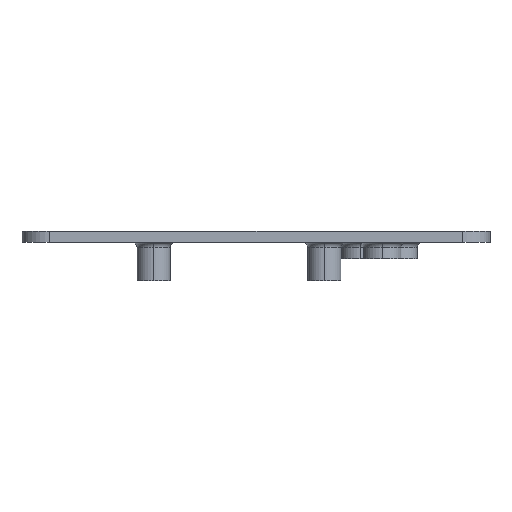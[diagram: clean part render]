
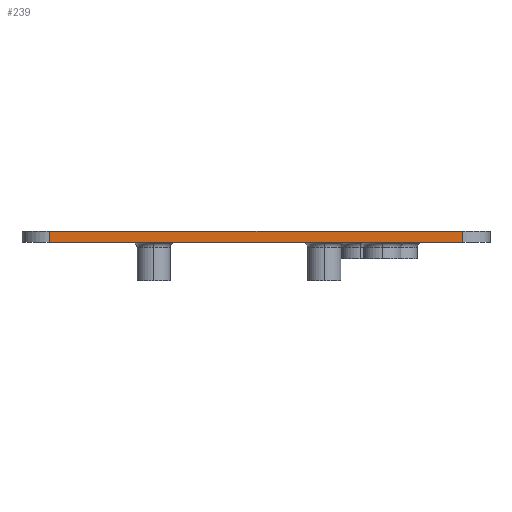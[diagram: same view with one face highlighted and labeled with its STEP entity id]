
A CAD part, left-side view. The second image highlights one B-rep face of the part: STEP entity #239.
In plain terms, the highlighted planar face has unit normal (-1, 0, 0).
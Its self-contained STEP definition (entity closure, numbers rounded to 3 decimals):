
#115 = ORIENTED_EDGE ( 'NONE', *, *, #2524, .F. ) ;
#154 = CARTESIAN_POINT ( 'NONE',  ( -45., 37.5, 0. ) ) ;
#239 = ADVANCED_FACE ( 'NONE', ( #1433 ), #621, .F. ) ;
#262 = VECTOR ( 'NONE', #821, 1000. ) ;
#289 = ORIENTED_EDGE ( 'NONE', *, *, #3244, .T. ) ;
#364 = CARTESIAN_POINT ( 'NONE',  ( -45., 37.5, 0. ) ) ;
#416 = ORIENTED_EDGE ( 'NONE', *, *, #3052, .F. ) ;
#483 = CARTESIAN_POINT ( 'NONE',  ( -45., 37.5, 2. ) ) ;
#520 = CARTESIAN_POINT ( 'NONE',  ( -45., 37.5, 2. ) ) ;
#621 = PLANE ( 'NONE',  #1502 ) ;
#821 = DIRECTION ( 'NONE',  ( 0., 0., -1. ) ) ;
#848 = CARTESIAN_POINT ( 'NONE',  ( -45., -37.5, 0. ) ) ;
#904 = DIRECTION ( 'NONE',  ( 1., 0., 0. ) ) ;
#1021 = LINE ( 'NONE', #483, #3109 ) ;
#1062 = DIRECTION ( 'NONE',  ( 0., 0., -1. ) ) ;
#1254 = CARTESIAN_POINT ( 'NONE',  ( -45., -37.5, 2. ) ) ;
#1320 = EDGE_LOOP ( 'NONE', ( #289, #416, #115, #2812 ) ) ;
#1433 = FACE_OUTER_BOUND ( 'NONE', #1320, .T. ) ;
#1502 = AXIS2_PLACEMENT_3D ( 'NONE', #3013, #904, #2261 ) ;
#1566 = VERTEX_POINT ( 'NONE', #2163 ) ;
#1666 = CARTESIAN_POINT ( 'NONE',  ( -45., -37.5, 2. ) ) ;
#1692 = VERTEX_POINT ( 'NONE', #154 ) ;
#1906 = LINE ( 'NONE', #520, #2002 ) ;
#2002 = VECTOR ( 'NONE', #1062, 1000. ) ;
#2073 = EDGE_CURVE ( 'NONE', #1566, #1692, #1906, .T. ) ;
#2161 = VERTEX_POINT ( 'NONE', #1254 ) ;
#2163 = CARTESIAN_POINT ( 'NONE',  ( -45., 37.5, 2. ) ) ;
#2197 = LINE ( 'NONE', #1666, #262 ) ;
#2261 = DIRECTION ( 'NONE',  ( 0., 1., 0. ) ) ;
#2265 = DIRECTION ( 'NONE',  ( 0., -1., 0. ) ) ;
#2302 = LINE ( 'NONE', #364, #2958 ) ;
#2524 = EDGE_CURVE ( 'NONE', #1566, #2161, #1021, .T. ) ;
#2812 = ORIENTED_EDGE ( 'NONE', *, *, #2073, .T. ) ;
#2821 = DIRECTION ( 'NONE',  ( 0., -1., 0. ) ) ;
#2958 = VECTOR ( 'NONE', #2265, 1000. ) ;
#3013 = CARTESIAN_POINT ( 'NONE',  ( -45., 37.5, 2. ) ) ;
#3052 = EDGE_CURVE ( 'NONE', #2161, #3054, #2197, .T. ) ;
#3054 = VERTEX_POINT ( 'NONE', #848 ) ;
#3109 = VECTOR ( 'NONE', #2821, 1000. ) ;
#3244 = EDGE_CURVE ( 'NONE', #1692, #3054, #2302, .T. ) ;
